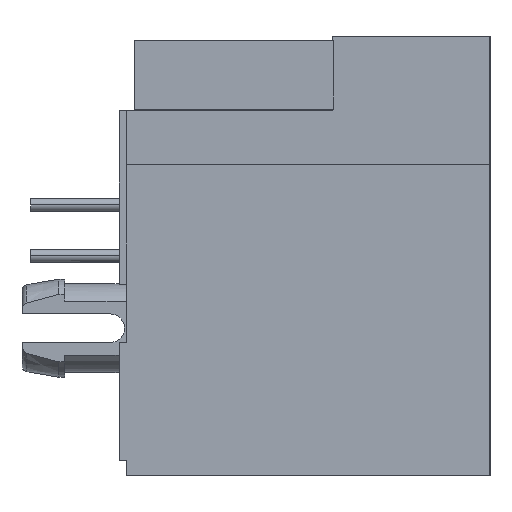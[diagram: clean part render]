
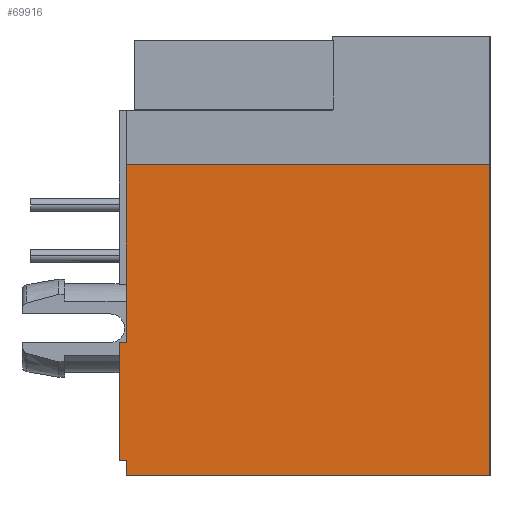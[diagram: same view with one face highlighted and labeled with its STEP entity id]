
A CAD part, left-side view. The second image highlights one B-rep face of the part: STEP entity #69916.
In plain terms, the highlighted planar face has unit normal (-1, 0, 0) by its records, which use the part's own axes.
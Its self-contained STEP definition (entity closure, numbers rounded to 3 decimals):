
#668=DIRECTION('',(0.,0.,-1.));
#669=VECTOR('',#668,10.901);
#670=CARTESIAN_POINT('',(-87.95,53.768,10.905));
#671=LINE('',#670,#669);
#672=DIRECTION('',(0.,1.,0.));
#673=VECTOR('',#672,12.75);
#674=CARTESIAN_POINT('',(-87.95,53.768,0.005));
#675=LINE('',#674,#673);
#700=DIRECTION('',(0.,0.,1.));
#701=VECTOR('',#700,0.536);
#702=CARTESIAN_POINT('',(-87.95,66.518,0.005));
#703=LINE('',#702,#701);
#9100=DIRECTION('',(0.,-1.,0.));
#9101=VECTOR('',#9100,12.75);
#9102=CARTESIAN_POINT('',(-87.95,66.518,10.905));
#9103=LINE('',#9102,#9101);
#9124=DIRECTION('',(0.,0.,1.));
#9125=VECTOR('',#9124,6.229);
#9126=CARTESIAN_POINT('',(-87.95,66.518,4.677));
#9127=LINE('',#9126,#9125);
#9339=DIRECTION('',(0.,0.,1.));
#9340=VECTOR('',#9339,4.136);
#9341=CARTESIAN_POINT('',(-87.95,66.768,0.541));
#9342=LINE('',#9341,#9340);
#9351=DIRECTION('',(0.,-1.,0.));
#9352=VECTOR('',#9351,0.25);
#9353=CARTESIAN_POINT('',(-87.95,66.768,4.677));
#9354=LINE('',#9353,#9352);
#9371=DIRECTION('',(0.,-1.,0.));
#9372=VECTOR('',#9371,0.25);
#9373=CARTESIAN_POINT('',(-87.95,66.768,0.541));
#9374=LINE('',#9373,#9372);
#59724=CARTESIAN_POINT('',(-87.95,53.768,10.905));
#59725=VERTEX_POINT('',#59724);
#59726=CARTESIAN_POINT('',(-87.95,53.768,0.005));
#59727=VERTEX_POINT('',#59726);
#60060=CARTESIAN_POINT('',(-87.95,66.518,0.005));
#60061=VERTEX_POINT('',#60060);
#60214=CARTESIAN_POINT('',(-87.95,66.518,10.905));
#60215=VERTEX_POINT('',#60214);
#60216=CARTESIAN_POINT('',(-87.95,66.518,4.677));
#60217=VERTEX_POINT('',#60216);
#60218=CARTESIAN_POINT('',(-87.95,66.768,4.677));
#60219=VERTEX_POINT('',#60218);
#60220=CARTESIAN_POINT('',(-87.95,66.768,0.541));
#60221=VERTEX_POINT('',#60220);
#60222=CARTESIAN_POINT('',(-87.95,66.518,0.541));
#60223=VERTEX_POINT('',#60222);
#69895=CARTESIAN_POINT('',(-87.95,60.268,5.455));
#69896=DIRECTION('',(1.,0.,0.));
#69897=DIRECTION('',(0.,0.,1.));
#69898=AXIS2_PLACEMENT_3D('',#69895,#69896,#69897);
#69899=PLANE('',#69898);
#69900=ORIENTED_EDGE('',*,*,#68943,.T.);
#69901=ORIENTED_EDGE('',*,*,#69720,.T.);
#69903=ORIENTED_EDGE('',*,*,#69902,.T.);
#69905=ORIENTED_EDGE('',*,*,#69904,.F.);
#69907=ORIENTED_EDGE('',*,*,#69906,.T.);
#69909=ORIENTED_EDGE('',*,*,#69908,.T.);
#69911=ORIENTED_EDGE('',*,*,#69910,.T.);
#69913=ORIENTED_EDGE('',*,*,#69912,.T.);
#69914=EDGE_LOOP('',(#69900,#69901,#69903,#69905,#69907,#69909,#69911,#69913));
#69915=FACE_OUTER_BOUND('',#69914,.F.);
#69916=ADVANCED_FACE('',(#69915),#69899,.F.);
#68943=EDGE_CURVE('',#59725,#59727,#671,.T.);
#69720=EDGE_CURVE('',#59727,#60061,#675,.T.);
#69902=EDGE_CURVE('',#60061,#60223,#703,.T.);
#69904=EDGE_CURVE('',#60221,#60223,#9374,.T.);
#69906=EDGE_CURVE('',#60221,#60219,#9342,.T.);
#69908=EDGE_CURVE('',#60219,#60217,#9354,.T.);
#69910=EDGE_CURVE('',#60217,#60215,#9127,.T.);
#69912=EDGE_CURVE('',#60215,#59725,#9103,.T.);
